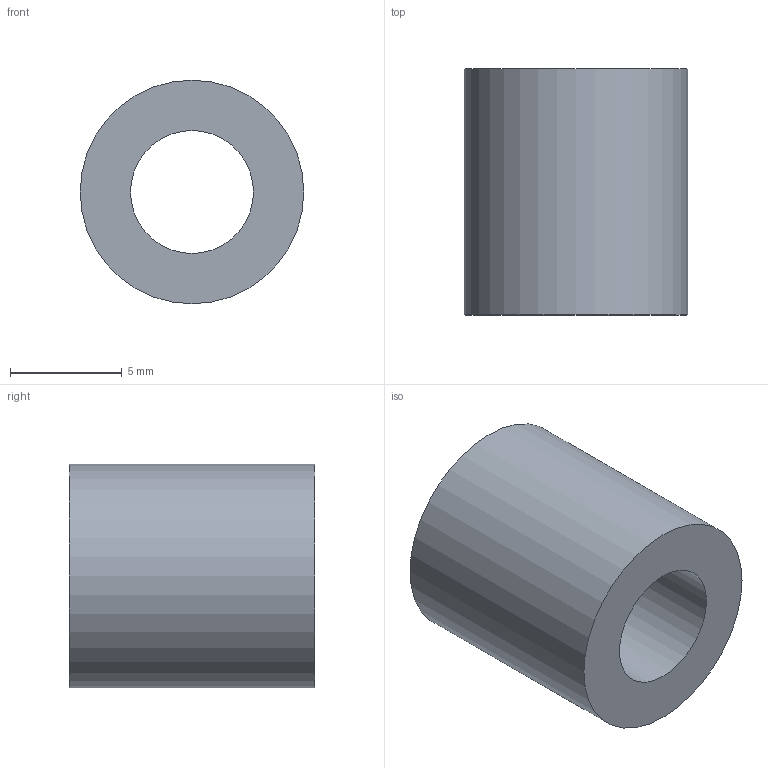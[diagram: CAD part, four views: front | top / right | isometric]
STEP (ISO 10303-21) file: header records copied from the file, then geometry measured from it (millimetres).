
FILE_DESCRIPTION(('Open CASCADE Model'),'2;1');
FILE_NAME('Open CASCADE Shape Model','2026-10-18T22:58:46',('Author'),( 'Open CASCADE'),'Open CASCADE STEP processor 7.9','Open CASCADE 7.9' ,'Unknown');
FILE_SCHEMA(('AUTOMOTIVE_DESIGN { 1 0 10303 214 1 1 1 1 }'));
Length unit declared in the file: millimetre
Products named in the file (1): Open CASCADE STEP translator 7.9 41
Bounding box: 10 x 11 x 10 mm (x, y, z)
Volume: 602.6 mm3; surface area: 645.2 mm2
Topology: 1 solids, 1 shells, 4 faces, 6 edges, 4 vertices
Faces by surface type: cylinder 2, plane 2
Full cylindrical faces by diameter (mm): 5.5 x1, 10 x1
Entity records: 192 total; most frequent: CARTESIAN_POINT 39, DIRECTION 30, ORIENTED_EDGE 12, PCURVE 12, DEFINITIONAL_REPRESENTATION 12, LINE 10, VECTOR 10, AXIS2_PLACEMENT_3D 9
